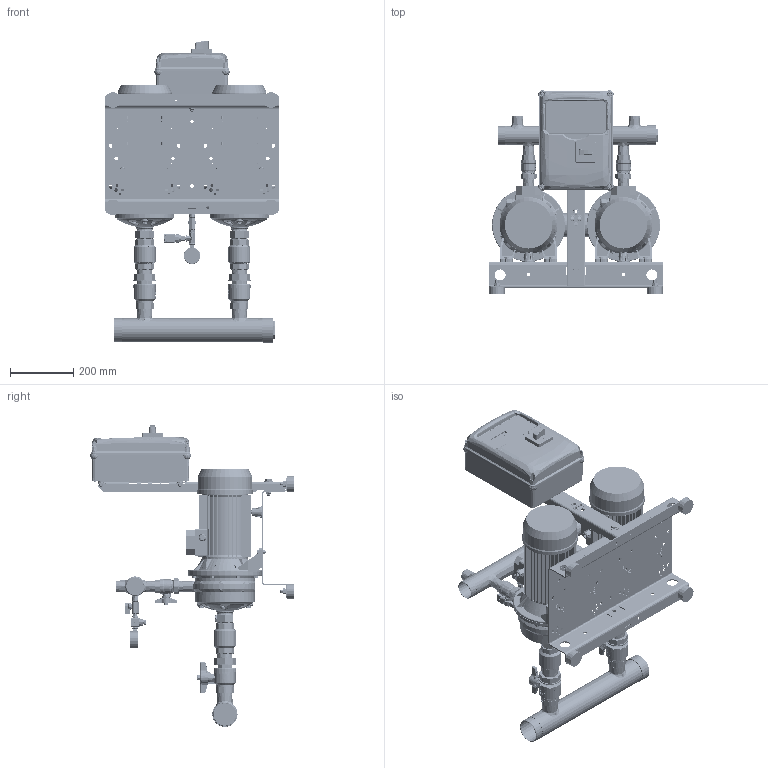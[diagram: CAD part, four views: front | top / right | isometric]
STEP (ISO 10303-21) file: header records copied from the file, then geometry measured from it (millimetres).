
FILE_DESCRIPTION((''),'2;1');
FILE_NAME('2GP_2CDX_200-40_REV5_ASM','2025-02-05T09:03:13',('Utente'),('"Ebara Pumps Europe S.p.A"'),'CREO PARAMETRIC BY PTC INC, 2022124','CREO PARAMETRIC BY PTC INC, 2022124','');
FILE_SCHEMA(('AUTOMOTIVE_DESIGN { 1 0 10303 214 1 1 1 1 }'));
Products named in the file (40): 62508_275562937; CALOTTA_F_A304_DN65_369800821; VAL_INT_MF-B_OTN_CIM346_DN40; VAL_INT_M-F-3_OTN_CIM346_DN40_ASM; VAL-NR-FF-OTN-CIM30-DN40; VAL_NR_F-F_OTN_CIM30_DN40_ASM; NIPPLO-ALIM_OT_DN40_361910052; TAPPO_M_OT_1-2_380000878; 3IEP_2CDX_200-40_IE3; EP_2CDX_200-40_ASM; VAL_INT_MF-B_OTN_CIM346_DN25; VAL_INT_M-F-3_OTN_CIM346_DN25_ASM; RONDEL-P_FE_ZN_UNI6592_M8; DADO_AUTOAGG_M8_ESAG; VITI_TE_ISO4017_M8_L25; 62510_275562942; CALOTTA_F_A304_DN50_369800820; TAPPO-SALVAFIL_D31; VAL_INT_MF_OTN_CIM012_DN8; NIPPLO_OTG_8_380000861; RACC-T_OTG_DN8_380000880; MAN_RAD_D50_10BAR_361600160; BASE_2GP_I300-B300_DNRV; MONTANTE_H600_271472877; PIEDINO_CIL_369650010; RONDEL-P_FE_ZN_UNI6592_M10; DADI_NORM_ISO4032_FE_ZN_M10; RONDEL-P_ZN_UNI6593_M10X30X2-5; VITI_TE_ISO4017_M10_L45; TRAVERSO_MONT_L200_271472882; RONDEL-P_FE_ZN_UNI6593_M6X18X2; RONDEL-P_FE_ZN_UNI6592_M6; VITI_TE_ISO4017_M6_L20; DADI_NORM_ISO4032_FE_ZN_M6; DADO_AUTOAGG_M10_ESAG; DNRV_2P_I300-B300_H600-Q220X300_ASM; COM_EP-PRO_2T_7-5KW_362334215; PG_PVC_D10-5_380000891; TRASD_16BAR_460500024; 2GP_2CDX_200-40_REV5_ASM
Assembly tree (83 placements, depth 3):
  2GP_2CDX_200-40_REV5_ASM
    62508_275562937
    CALOTTA_F_A304_DN65_369800821
    VAL_INT_M-F-3_OTN_CIM346_DN40_ASM  x2
      VAL_INT_MF-B_OTN_CIM346_DN40
    VAL_NR_F-F_OTN_CIM30_DN40_ASM  x2
      VAL-NR-FF-OTN-CIM30-DN40
    NIPPLO-ALIM_OT_DN40_361910052  x2
    TAPPO_M_OT_1-2_380000878  x2
    EP_2CDX_200-40_ASM  x2
      3IEP_2CDX_200-40_IE3
    VAL_INT_M-F-3_OTN_CIM346_DN25_ASM  x2
      VAL_INT_MF-B_OTN_CIM346_DN25
    RONDEL-P_FE_ZN_UNI6592_M8  x4
    DADO_AUTOAGG_M8_ESAG  x4
    VITI_TE_ISO4017_M8_L25  x4
    62510_275562942
    CALOTTA_F_A304_DN50_369800820
    TAPPO-SALVAFIL_D31  x2
    VAL_INT_MF_OTN_CIM012_DN8
    NIPPLO_OTG_8_380000861
    RACC-T_OTG_DN8_380000880
    MAN_RAD_D50_10BAR_361600160
    DNRV_2P_I300-B300_H600-Q220X300_ASM
      BASE_2GP_I300-B300_DNRV
      MONTANTE_H600_271472877
      PIEDINO_CIL_369650010  x4
      RONDEL-P_FE_ZN_UNI6592_M10  x4
      DADI_NORM_ISO4032_FE_ZN_M10  x4
      RONDEL-P_ZN_UNI6593_M10X30X2-5
      VITI_TE_ISO4017_M10_L45
      TRAVERSO_MONT_L200_271472882  x2
      RONDEL-P_FE_ZN_UNI6593_M6X18X2  x8
      RONDEL-P_FE_ZN_UNI6592_M6  x4
      VITI_TE_ISO4017_M6_L20  x4
      DADI_NORM_ISO4032_FE_ZN_M6  x4
      DADO_AUTOAGG_M10_ESAG
    COM_EP-PRO_2T_7-5KW_362334215
    PG_PVC_D10-5_380000891  x3
    TRASD_16BAR_460500024
Bounding box: 550 x 644.45 x 955.12 mm (x, y, z)
Volume: 16685850.4 mm3; surface area: 3829524.1 mm2
Topology: 1351 solids, 1486 shells, 21402 faces, 54439 edges, 36124 vertices
Faces by surface type: plane 14114, cylinder 3263, cone 1332, bspline 969, extrusion 943, torus 660, sphere 119, revolution 2
Entity records: 959223 total; most frequent: CARTESIAN_POINT 308919, ORIENTED_EDGE 80458, DIRECTION 75291, PRESENTATION_STYLE_ASSIGNMENT 51518, STYLED_ITEM 42405, EDGE_CURVE 41283, CURVE_STYLE 38695, VECTOR 30277
